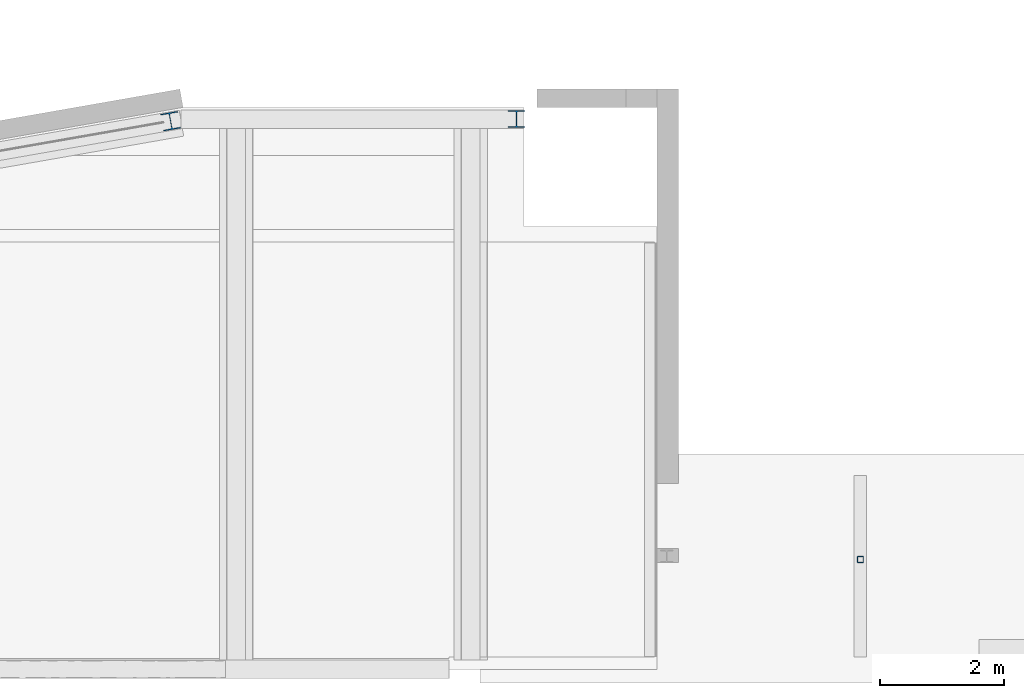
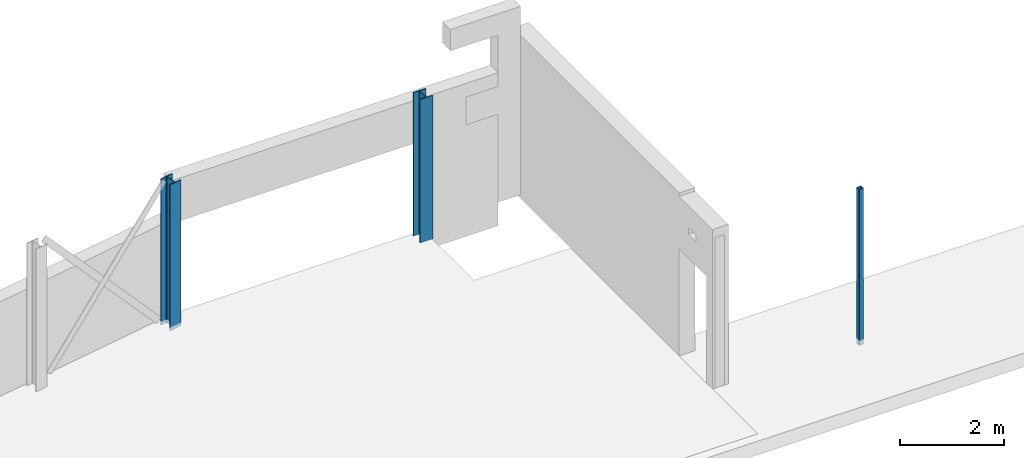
# One storey, part 7 of 37: 3 columns.
"""IFC2X3 building model written with IfcOpenShell, lengths in millimetres."""

from ifc_helpers import new_model, entity, si_unit, converted_unit, derived_unit, direction, frame, frame_2d, origin, place, context, subcontext, project, spatial, polyline, circle_curve, parameter, trimmed, segment, composite_curve, i_section, outline, extrude, source, transform, mapped, material, type_object, type_shapes, element, save


model = new_model("IFC2X3")

# Units and contexts
model_context = context("Model", 3, precision=0.01, world=origin(), true_north=direction((6.12303176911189e-17, 1.0)))
body_context = subcontext(model_context, "Body", "Model", "MODEL_VIEW")
ifc_project = project(units=[si_unit("LENGTHUNIT", "METRE", prefix="MILLI"), si_unit("AREAUNIT", "SQUARE_METRE", prefix="MILLI"), si_unit("VOLUMEUNIT", "CUBIC_METRE"), converted_unit("PLANEANGLEUNIT", "DEGREE", entity("IfcRatioMeasure", 0.0174532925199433), si_unit("PLANEANGLEUNIT", "RADIAN"), dimensions=[0, 0, 0, 0, 0, 0, 0]), si_unit("MASSUNIT", "GRAM", prefix="KILO"), derived_unit("MASSDENSITYUNIT", [(si_unit("MASSUNIT", "GRAM", prefix="KILO"), 1), (si_unit("LENGTHUNIT", "METRE"), -3)]), derived_unit("MOMENTOFINERTIAUNIT", [(si_unit("LENGTHUNIT", "METRE"), 4)]), si_unit("TIMEUNIT", "SECOND"), si_unit("FREQUENCYUNIT", "HERTZ"), si_unit("THERMODYNAMICTEMPERATUREUNIT", "DEGREE_CELSIUS"), derived_unit("THERMALTRANSMITTANCEUNIT", [(si_unit("MASSUNIT", "GRAM", prefix="KILO"), 1), (si_unit("THERMODYNAMICTEMPERATUREUNIT", "KELVIN"), -1), (si_unit("TIMEUNIT", "SECOND"), -3)]), derived_unit("VOLUMETRICFLOWRATEUNIT", [(si_unit("LENGTHUNIT", "METRE"), 3), (si_unit("TIMEUNIT", "SECOND"), -1)]), si_unit("ELECTRICCURRENTUNIT", "AMPERE"), si_unit("ELECTRICVOLTAGEUNIT", "VOLT"), si_unit("POWERUNIT", "WATT"), si_unit("FORCEUNIT", "NEWTON", prefix="KILO"), si_unit("ILLUMINANCEUNIT", "LUX"), si_unit("LUMINOUSFLUXUNIT", "LUMEN"), si_unit("LUMINOUSINTENSITYUNIT", "CANDELA"), derived_unit("USERDEFINED", [(si_unit("MASSUNIT", "GRAM", prefix="KILO"), -1), (si_unit("LENGTHUNIT", "METRE"), -2), (si_unit("TIMEUNIT", "SECOND"), 3), (si_unit("LUMINOUSFLUXUNIT", "LUMEN"), 1)]), derived_unit("LINEARVELOCITYUNIT", [(si_unit("LENGTHUNIT", "METRE"), 1), (si_unit("TIMEUNIT", "SECOND"), -1)]), si_unit("PRESSUREUNIT", "PASCAL"), derived_unit("USERDEFINED", [(si_unit("LENGTHUNIT", "METRE"), -2), (si_unit("MASSUNIT", "GRAM", prefix="KILO"), 1), (si_unit("TIMEUNIT", "SECOND"), -2)]), derived_unit("LINEARFORCEUNIT", [(si_unit("MASSUNIT", "GRAM", prefix="KILO"), 1), (si_unit("LENGTHUNIT", "METRE"), 1), (si_unit("TIMEUNIT", "SECOND"), -2), (si_unit("LENGTHUNIT", "METRE"), -1)]), derived_unit("PLANARFORCEUNIT", [(si_unit("MASSUNIT", "GRAM", prefix="KILO"), 1), (si_unit("LENGTHUNIT", "METRE"), 1), (si_unit("TIMEUNIT", "SECOND"), -2), (si_unit("LENGTHUNIT", "METRE"), -2)])], contexts=[model_context])

# Site, building, storey
site_placement = place(None, origin())
site = spatial("IfcSite", under=ifc_project, at=site_placement, Name="Theater aan de Parade", CompositionType="ELEMENT")
building_placement = place(site_placement, origin())
building = spatial("IfcBuilding", under=site, at=building_placement, Name="Theater aan de Parade", CompositionType="ELEMENT")
storey_placement = place(building_placement, frame((0.0, 0.0, 5020.0)))
storey = spatial("IfcBuildingStorey", under=building, at=storey_placement, Name="01 eerste verdieping", CompositionType="ELEMENT", Elevation=5020.0)

# Columns
ifc_material = material(Name="00_PBT_MAT_staal_S355")
column_type_1 = type_object("IfcColumnType", Name="28_PBT_SC_staal_H-profiel:S355_HE280B", PredefinedType="COLUMN", material=ifc_material)
shared_shape_1 = source(origin(), body_context, "Body", "SweptSolid", [
    extrude(i_section(OverallWidth=279.999999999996, OverallDepth=280.000000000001, WebThickness=10.5000000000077, FlangeThickness=18.0, FilletRadius=24.0000000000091, at=frame_2d((-8.5265128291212e-12, 1.49213974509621e-12), x_axis=(1.0, 0.0))), frame((59491.1870358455, 21821.3371740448, 4855.0), z_axis=(0.0, 0.0, 1.0), x_axis=(-0.985030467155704, -0.172380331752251, 0.0)), (0.0, 0.0, 1.0), 3418.0),
])
type_shapes(column_type_1, [shared_shape_1])
column_1_placement = place(storey_placement, frame((0.0, 0.0, -5020.0)))
element("IfcColumn", 1, at=column_1_placement, inside=storey, type_object=column_type_1, material=ifc_material, Name="28_PBT_SC_staal_H-profiel:S355_HE280B", ObjectType="28_PBT_SC_staal_H-profiel:S355_HE280B", context=body_context, shape_type="MappedRepresentation", body=[
    mapped(shared_shape_1, transform((0.0, 0.0, 0.0), scale=1.0)),
])
column_type_2 = type_object("IfcColumnType", Name="28_PBT_SC_staal_H-profiel:S355_HE280B", PredefinedType="COLUMN", material=ifc_material)
shared_shape_2 = source(origin(), body_context, "Body", "SweptSolid", [
    extrude(i_section(OverallWidth=279.999999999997, OverallDepth=279.999999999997, WebThickness=10.5000000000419, FlangeThickness=18.0000000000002, FilletRadius=24.0000000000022, at=frame_2d((0.0, 4.32009983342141e-12), x_axis=(0.0, 1.0))), frame((65087.0520755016, 21855.0, 4930.0), z_axis=(0.0, 0.0, 1.0), x_axis=(0.0, -1.0, 0.0)), (0.0, 0.0, 1.0), 3360.0),
])
type_shapes(column_type_2, [shared_shape_2])
column_2_placement = place(storey_placement, frame((0.0, 0.0, -5020.0)))
element("IfcColumn", 2, at=column_2_placement, inside=storey, type_object=column_type_2, material=ifc_material, Name="28_PBT_SC_staal_H-profiel:S355_HE280B", ObjectType="28_PBT_SC_staal_H-profiel:S355_HE280B", context=body_context, shape_type="MappedRepresentation", body=[
    mapped(shared_shape_2, transform((0.0, 0.0, 0.0), scale=1.0)),
])
column_type_3 = type_object("IfcColumnType", Name="28_PBT_SC_staal_koker:S355_K100x100x6.3", PredefinedType="COLUMN", material=ifc_material)
shared_shape_3 = source(origin(), body_context, "Body", "SweptSolid", [
    extrude(outline(composite_curve([segment(trimmed(circle_curve(frame_2d((-40.55, -40.55), x_axis=(1.0, 0.0)), 9.45), [parameter(180.0)], [parameter(270.0)], True, "PARAMETER"), True, "CONTINUOUS"), segment(polyline([(-40.55, -50.0), (40.55, -50.0)]), True, "CONTINUOUS"), segment(trimmed(circle_curve(frame_2d((40.55, -40.55), x_axis=(1.0, 0.0)), 9.45), [parameter(270.0)], [parameter(0.0)], True, "PARAMETER"), True, "CONTINUOUS"), segment(polyline([(50.0, -40.55), (50.0, 40.55)]), True, "CONTINUOUS"), segment(trimmed(circle_curve(frame_2d((40.55, 40.55), x_axis=(1.0, 0.0)), 9.45), [parameter(3.56222124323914e-13)], [parameter(90.0000000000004)], True, "PARAMETER"), True, "CONTINUOUS"), segment(polyline([(40.55, 50.0), (-40.55, 50.0)]), True, "CONTINUOUS"), segment(trimmed(circle_curve(frame_2d((-40.55, 40.55), x_axis=(1.0, 0.0)), 9.45), [parameter(90.0)], [parameter(180.0)], True, "PARAMETER"), True, "CONTINUOUS"), segment(polyline([(-50.0, 40.55), (-50.0, -40.55)]), True, "CONTINUOUS")], self_intersect=False), holes=[composite_curve([segment(trimmed(circle_curve(frame_2d((37.4, 37.4), x_axis=(1.0, 0.0)), 6.3), [parameter(0.0)], [parameter(90.0000000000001)], True, "PARAMETER"), False, "CONTINUOUS"), segment(polyline([(43.7, 37.4), (43.7, -37.4)]), True, "CONTINUOUS"), segment(trimmed(circle_curve(frame_2d((37.4, -37.4), x_axis=(1.0, 0.0)), 6.3), [parameter(270.0)], [parameter(360.0)], True, "PARAMETER"), False, "CONTINUOUS"), segment(polyline([(37.4, -43.7), (-37.4, -43.7)]), True, "CONTINUOUS"), segment(trimmed(circle_curve(frame_2d((-37.4, -37.4), x_axis=(1.0, 0.0)), 6.3), [parameter(180.0)], [parameter(270.0)], True, "PARAMETER"), False, "CONTINUOUS"), segment(polyline([(-43.7, -37.4), (-43.7, 37.4)]), True, "CONTINUOUS"), segment(trimmed(circle_curve(frame_2d((-37.4, 37.4), x_axis=(1.0, 0.0)), 6.3), [parameter(89.9999999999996)], [parameter(180.0)], True, "PARAMETER"), False, "CONTINUOUS"), segment(polyline([(-37.4, 43.7), (37.4, 43.7)]), True, "CONTINUOUS")], self_intersect=False)]), frame((0.0, 0.0, 4820.0), z_axis=(0.0, 0.0, 1.0), x_axis=(-1.0, 0.0, 0.0)), (0.0, 0.0, 1.0), 3650.0),
])
type_shapes(column_type_3, [shared_shape_3])
column_3_placement = place(storey_placement, frame((70649.8589693, 14730.0, -5020.0), z_axis=(0.0, 0.0, 1.0), x_axis=(0.0, 1.0, 0.0)))
element("IfcColumn", 3, at=column_3_placement, inside=storey, type_object=column_type_3, material=ifc_material, Name="28_PBT_SC_staal_koker:S355_K100x100x6.3", ObjectType="28_PBT_SC_staal_koker:S355_K100x100x6.3", context=body_context, shape_type="MappedRepresentation", body=[
    mapped(shared_shape_3, transform((0.0, 0.0, 0.0), scale=1.0)),
])

save(model, "model.ifc")
